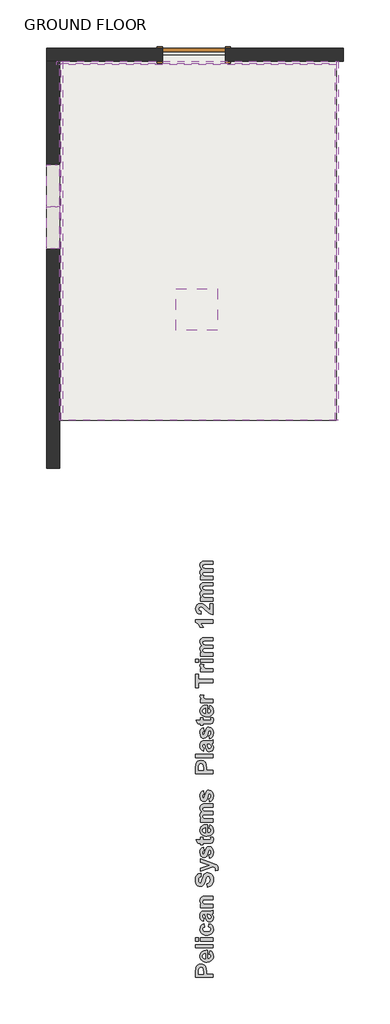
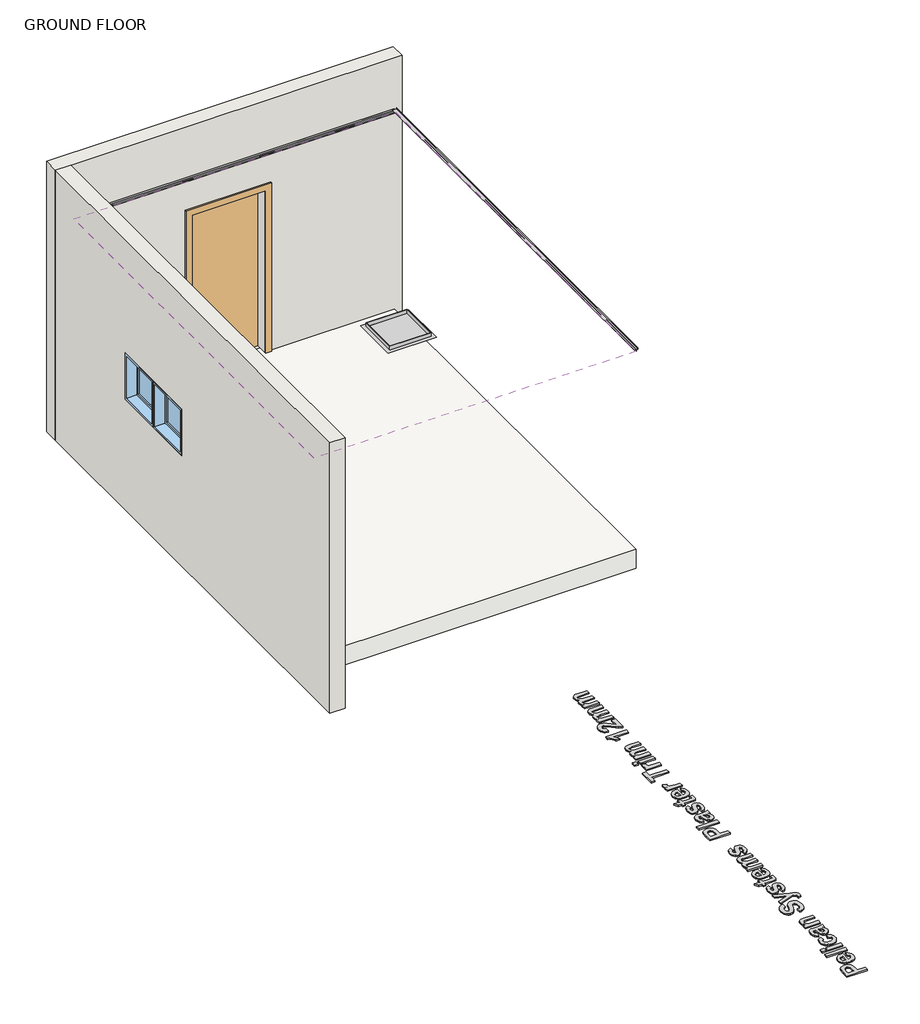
# One storey: 5 proxies, 2 walls, 2 windows, 1 covering, 1 door, 1 slab.
"""IFC4 building model written with IfcOpenShell, lengths in millimetres."""

from ifc_helpers import new_model, si_unit, frame, origin, origin_with_axes, place, context, project, spatial, polyline, outline, extrude, faceted_brep, transform, mapped, element, save
from components import m_single_flush_0915_x_2134mm_f5238887, m_fixed_0610_x_0610mm_09852ef8

model = new_model("IFC4")

# Units and contexts
model_context = context("Model", 3, world=origin())
ifc_project = project(units=[si_unit("LENGTHUNIT", "METRE", prefix="MILLI")], contexts=[model_context])

# Site, building, storey
site = spatial("IfcSite", under=ifc_project)
building = spatial("IfcBuilding", under=site)
storey = spatial("IfcBuildingStorey", under=building, Name="GROUND FLOOR", Elevation=0.0)

# Proxies
placement = place(None, origin())
element("IfcBuildingElementProxy", 1, Name="600mm Arial", ObjectType="600mm Arial", at=placement, inside=storey, context=model_context, shape_type="SweptSolid", body=[
    extrude(outline(polyline([(167673.5232647, 28925.9411568), (167418.4584147, 28925.9411568), (167418.4584147, 29008.1160675), (167422.2540226, 29069.0355741), (167431.3081289, 29089.0811283), (167447.0836242, 29105.5683), (167468.9953522, 29116.5992854), (167496.4581568, 29120.2762806), (167517.9428789, 29118.1175286), (167535.7110683, 29111.6412726), (167549.9129679, 29101.8359523), (167560.6988203, 29089.690007), (167572.7498753, 29062.6463008), (167576.3557028, 29008.5588884), (167576.3557028, 28974.5249377), (167673.5232647, 28974.5249377), (167673.5232647, 28925.9411568)]), holes=[polyline([(167462.9935472, 28974.5249377), (167531.8205703, 28974.5249377), (167531.8205703, 29004.7000204), (167528.0249624, 29048.2546209), (167516.1004276, 29065.4613767), (167507.3151768, 29070.1347189), (167497.2172784, 29071.6924996), (167485.1504083, 29069.5021176), (167475.392533, 29062.9309714), (167468.4022885, 29053.0228533), (167464.6383107, 29040.8215555), (167462.9935472, 29001.1574531), (167462.9935472, 28974.5249377)])]), origin_with_axes(), (0.0, 0.0, 1.0), 15.0),
    extrude(outline(polyline([(167616.8421869, 29266.0276234), (167624.9394837, 29314.6114044), (167647.6103334, 29302.7817598), (167664.1291352, 29285.6382642), (167674.2112186, 29263.3548829), (167677.5719131, 29236.1055812), (167675.5910802, 29214.1029168), (167669.6485816, 29195.1604612), (167659.7444173, 29179.2782144), (167645.8785873, 29166.4561765), (167617.1743026, 29153.0766587), (167581.7960741, 29148.6168195), (167559.9555137, 29150.095525), (167540.6137285, 29154.5316417), (167523.7707185, 29161.9251696), (167509.4264837, 29172.2761086), (167497.9684924, 29184.8885973), (167489.7842129, 29199.0667743), (167484.8736452, 29214.8106395), (167483.2367893, 29232.120193), (167484.9171366, 29251.3552267), (167489.9581783, 29268.4473234), (167498.3599145, 29283.3964833), (167510.1223452, 29296.2027061), (167525.3561756, 29306.4073561), (167544.1721109, 29313.5517972), (167566.5701512, 29317.6360294), (167592.5502964, 29318.6600528), (167592.5502964, 29197.2006004), (167613.014949, 29200.3161619), (167628.3555308, 29208.6506842), (167637.9394408, 29220.9389647), (167641.1340774, 29235.9158009), (167639.6949094, 29246.116497), (167635.3774054, 29254.5775396), (167627.8652648, 29261.2356685), (167616.8421869, 29266.0276234)]), holes=[polyline([(167564.2097576, 29270.0762718), (167545.0024002, 29267.1188607), (167531.0298186, 29259.2587894), (167522.5134234, 29247.8403356), (167519.674625, 29234.2077773), (167522.6636662, 29219.8160974), (167531.6307899, 29208.1446031), (167545.7852443, 29200.4901272), (167564.2097576, 29198.0229821), (167564.2097576, 29270.0762718)])]), origin_with_axes(), (0.0, 0.0, 1.0), 15.0),
    extrude(outline(polyline([(167673.5232647, 29355.0978885), (167418.4584147, 29355.0978885), (167418.4584147, 29403.6816694), (167673.5232647, 29403.6816694), (167673.5232647, 29355.0978885)])), origin_with_axes(), (0.0, 0.0, 1.0), 15.0),
    extrude(outline(polyline([(167462.9935472, 29452.2654504), (167418.4584147, 29452.2654504), (167418.4584147, 29500.8492313), (167462.9935472, 29500.8492313), (167462.9935472, 29452.2654504)])), origin_with_axes(), (0.0, 0.0, 1.0), 15.0),
    extrude(outline(polyline([(167673.5232647, 29452.2654504), (167487.2854377, 29452.2654504), (167487.2854377, 29500.8492313), (167673.5232647, 29500.8492313), (167673.5232647, 29452.2654504)])), origin_with_axes(), (0.0, 0.0, 1.0), 15.0),
    extrude(outline(polyline([(167539.9178671, 29703.281652), (167548.0151639, 29654.697871), (167535.6557157, 29650.9734308), (167526.7913898, 29644.3548395), (167521.4538162, 29635.0793228), (167519.674625, 29623.384106), (167523.011597, 29607.980264), (167533.0225128, 29596.0557292), (167550.8460548, 29588.4170683), (167577.6209054, 29585.870848), (167607.3057221, 29588.519866), (167626.7740276, 29596.46692), (167637.5440649, 29608.8738133), (167641.1340774, 29624.9023491), (167639.0860306, 29637.0403868), (167632.9418904, 29646.7587245), (167621.7843847, 29654.0099171), (167604.6962417, 29658.7465194), (167612.7935385, 29707.3303004), (167640.9363895, 29696.6946908), (167661.2191691, 29679.3376922), (167673.4837271, 29655.1011544), (167677.5719131, 29623.8269269), (167675.9627335, 29605.0604135), (167671.1351947, 29588.2984556), (167663.0892968, 29573.541053), (167651.8250396, 29560.7882059), (167637.7180303, 29550.5064577), (167621.1438759, 29543.1623518), (167602.1025763, 29538.7558882), (167580.5941316, 29537.2870671), (167558.8425308, 29538.7460038), (167539.641104, 29543.1228142), (167522.9898513, 29550.4174981), (167508.8887726, 29560.6300556), (167497.6660299, 29573.3334807), (167489.6497851, 29588.1007676), (167484.8400383, 29604.9319164), (167483.2367893, 29623.8269269), (167486.7398191, 29653.0689226), (167497.2489084, 29675.6369745), (167514.9222076, 29692.1636839), (167539.9178671, 29703.281652)])), origin_with_axes(), (0.0, 0.0, 1.0), 15.0),
    extrude(outline(polyline([(167543.9665155, 29784.2546202), (167535.8692187, 29739.7194877), (167512.5262302, 29749.3745652), (167496.1418561, 29764.1695285), (167486.463056, 29785.7333258), (167483.2367893, 29815.6949056), (167485.1899459, 29842.7860568), (167491.0494155, 29861.9380616), (167499.9058339, 29874.8747585), (167510.8498367, 29883.3199861), (167527.8589045, 29887.9696057), (167554.9105182, 29889.519479), (167612.3507176, 29889.519479), (167648.5355128, 29892.0815143), (167673.5232647, 29901.6654242), (167673.5232647, 29853.0816432), (167658.0877926, 29848.5269138), (167651.9515599, 29846.8188902), (167671.1510098, 29820.8189762), (167675.9666873, 29806.5063715), (167677.5719131, 29791.2764948), (167673.6735075, 29766.5022458), (167661.9782907, 29747.5953741), (167644.3366216, 29735.6154867), (167622.5988589, 29731.6221909), (167607.7010979, 29733.4013821), (167594.5113605, 29738.7389556), (167583.6148029, 29747.2869809), (167575.5965812, 29758.6975271), (167564.1464974, 29795.704704), (167552.0638123, 29840.935698), (167546.9397417, 29840.935698), (167534.3193455, 29839.4253624), (167525.937378, 29834.8943554), (167521.2403133, 29826.1881799), (167519.674625, 29812.1523382), (167521.0189028, 29802.0781623), (167525.0517362, 29794.5027615), (167543.9665155, 29784.2546202)]), holes=[polyline([(167588.501648, 29840.935698), (167595.238852, 29813.5440611), (167602.924958, 29788.9991301), (167609.8361274, 29782.4042614), (167618.4236902, 29780.2059718), (167627.0349756, 29781.969348), (167634.3968734, 29787.2594765), (167639.4497764, 29795.2697906), (167641.1340774, 29805.1937237), (167639.1730133, 29817.1024435), (167633.2898211, 29828.410192), (167618.7399909, 29839.1644143), (167597.2948063, 29840.935698), (167588.501648, 29840.935698)])]), origin_with_axes(), (0.0, 0.0, 1.0), 15.0),
    extrude(outline(polyline([(167673.5232647, 30104.0978448), (167673.5232647, 30055.5140639), (167577.8106858, 30055.5140639), (167538.4628841, 30052.4775776), (167524.6089153, 30042.5457369), (167519.674625, 30026.0348426), (167521.4380012, 30014.2763657), (167526.7281297, 30003.7989064), (167534.9361317, 29995.5118292), (167545.4531286, 29990.3244984), (167588.5649082, 29986.6870409), (167673.5232647, 29986.6870409), (167673.5232647, 29938.1032599), (167487.2854377, 29938.1032599), (167487.2854377, 29986.6870409), (167514.1077335, 29986.6870409), (167500.6016954, 29998.9792751), (167490.9545253, 30012.76603), (167485.1662233, 30028.0473055), (167483.2367893, 30044.8231016), (167489.1199815, 30073.0371203), (167504.1126327, 30092.3947205), (167524.7670656, 30101.5358095), (167557.8837444, 30104.0978448), (167673.5232647, 30104.0978448)])), origin_with_axes(), (0.0, 0.0, 1.0), 15.0),
    extrude(outline(polyline([(167588.501648, 30237.7032424), (167584.4529996, 30286.2870234), (167606.1828548, 30293.3721581), (167621.2703961, 30305.2650628), (167630.0951845, 30322.0448127), (167633.0367806, 30343.7904829), (167630.4352077, 30366.3585348), (167622.630489, 30382.5689434), (167611.346463, 30392.3426337), (167598.3069684, 30395.6005305), (167583.0929068, 30390.1917893), (167572.1805341, 30371.2453799), (167561.3630516, 30329.1141324), (167550.1818234, 30293.1507476), (167536.50182, 30269.7761291), (167513.2062766, 30251.7944367), (167485.3243736, 30245.8005393), (167466.5361146, 30248.552355), (167449.0130582, 30256.8078021), (167434.1311123, 30270.2505801), (167423.2661847, 30288.5643881), (167416.6238709, 30311.4487407), (167414.4097663, 30338.6031521), (167419.9292128, 30380.5683418), (167426.8285209, 30397.1088893), (167436.4875522, 30410.6880719), (167448.4476708, 30421.3493809), (167462.2502407, 30429.1363077), (167477.895262, 30434.0488523), (167495.3827345, 30436.0870146), (167495.3827345, 30387.5032337), (167478.6899674, 30382.13403), (167467.4533865, 30372.8585133), (167461.0720208, 30358.8226716), (167458.9448988, 30339.1724933), (167461.2064485, 30318.4864303), (167467.9910976, 30302.8611778), (167474.7915618, 30296.5035346), (167483.55309, 30294.3843202), (167491.8243522, 30296.3137542), (167498.7987816, 30302.1020562), (167506.9672461, 30318.9055287), (167515.4045662, 30349.7053052), (167524.1819094, 30382.576851), (167533.3704435, 30405.5956313), (167544.4963191, 30421.7269648), (167559.0856869, 30433.9361702), (167577.3204198, 30441.6222761), (167599.3823906, 30444.1843115), (167620.4480144, 30441.1557327), (167640.1219153, 30432.0699963), (167656.6644397, 30417.4410909), (167668.3359339, 30397.7830051), (167675.2629183, 30372.8822358), (167677.5719131, 30342.5252802), (167676.150537, 30319.8228006), (167671.8864088, 30299.9195817), (167664.7795284, 30282.8156237), (167654.8298959, 30268.5109264), (167642.1561239, 30256.9066461), (167626.8768253, 30247.9039386), (167608.992, 30241.5028041), (167588.501648, 30237.7032424)])), origin_with_axes(), (0.0, 0.0, 1.0), 15.0),
    extrude(outline(polyline([(167487.2854377, 30464.4275535), (167487.2854377, 30513.0113345), (167619.1195517, 30555.5221428), (167487.2854377, 30598.0329511), (167487.2854377, 30646.6167321), (167665.7422685, 30583.6096412), (167698.8905774, 30571.9065169), (167722.4866064, 30560.3615429), (167735.7079739, 30547.7411466), (167743.5838603, 30530.1864602), (167746.3989361, 30506.6853213), (167743.6154903, 30480.6221472), (167707.6204755, 30476.5734988), (167709.9611004, 30495.8678389), (167707.3911576, 30509.634825), (167699.6813291, 30519.3057176), (167673.5232647, 30530.9772118), (167487.2854377, 30464.4275535)])), origin_with_axes(), (0.0, 0.0, 1.0), 15.0),
    extrude(outline(polyline([(167620.8908353, 30654.7140289), (167612.7935385, 30703.2978099), (167625.0343739, 30707.923707), (167633.9224224, 30715.7284257), (167639.3311637, 30726.9808216), (167641.1340774, 30741.9497502), (167639.4102388, 30758.1917889), (167634.2387231, 30769.8474681), (167628.6085714, 30774.591978), (167621.3336563, 30776.1734813), (167612.2241973, 30772.8206943), (167605.8349241, 30756.9424013), (167593.4043082, 30710.0191988), (167582.0491146, 30684.12999), (167564.0674223, 30668.1409918), (167540.2341677, 30662.8113257), (167518.0456766, 30667.3818702), (167499.6844235, 30681.0935037), (167487.3486979, 30704.4206772), (167483.2367893, 30737.8378416), (167486.5579462, 30769.7051329), (167496.5214169, 30792.1782945), (167513.0006812, 30807.1867607), (167535.8692187, 30816.6599654), (167543.9665155, 30768.0761845), (167533.5760389, 30764.501987), (167525.937378, 30758.713685), (167521.2403133, 30750.3633477), (167519.674625, 30739.1030443), (167521.0030878, 30725.2648905), (167524.9884761, 30716.0130963), (167534.8570566, 30711.3951067), (167543.6502148, 30716.0130963), (167557.2511431, 30758.9983556), (167567.0722785, 30790.225138), (167578.9493682, 30810.3339523), (167594.6220658, 30821.1514348), (167615.450464, 30824.7572622), (167639.1492908, 30819.5303939), (167659.2581051, 30803.8497888), (167667.2703961, 30792.1407338), (167672.9934611, 30777.9210424), (167677.5719131, 30741.9497502), (167673.7604902, 30708.6353835), (167662.3262214, 30683.0861979), (167644.3445291, 30665.1598581), (167620.8908353, 30654.7140289)])), origin_with_axes(), (0.0, 0.0, 1.0), 15.0),
    extrude(outline(polyline([(167487.2854377, 30958.3626599), (167523.7232734, 30958.3626599), (167523.7232734, 30921.9248241), (167603.6208195, 30921.9248241), (167631.8664681, 30923.0318764), (167638.5087819, 30928.0610569), (167641.1340774, 30937.6133367), (167636.4528277, 30960.3869841), (167670.9928594, 30962.4113083), (167675.9271497, 30943.6704943), (167677.5719131, 30922.6206856), (167673.0171836, 30898.0757546), (167661.2507992, 30882.0393113), (167641.7034186, 30874.9225465), (167606.3410051, 30873.3410432), (167523.7232734, 30873.3410432), (167523.7232734, 30849.0491527), (167487.2854377, 30849.0491527), (167487.2854377, 30873.3410432), (167450.847602, 30873.3410432), (167422.5070631, 30921.9248241), (167487.2854377, 30921.9248241), (167487.2854377, 30958.3626599)])), origin_with_axes(), (0.0, 0.0, 1.0), 15.0),
    extrude(outline(polyline([(167616.8421869, 31091.9680575), (167624.9394837, 31140.5518384), (167647.6103334, 31128.7221938), (167664.1291352, 31111.5786982), (167674.2112186, 31089.2953169), (167677.5719131, 31062.0460153), (167675.5910802, 31040.0433508), (167669.6485816, 31021.1008952), (167659.7444173, 31005.2186485), (167645.8785873, 30992.3966106), (167617.1743026, 30979.0170928), (167581.7960741, 30974.5572535), (167559.9555137, 30976.0359591), (167540.6137285, 30980.4720758), (167523.7707185, 30987.8656037), (167509.4264837, 30998.2165427), (167497.9684924, 31010.8290314), (167489.7842129, 31025.0072083), (167484.8736452, 31040.7510735), (167483.2367893, 31058.060627), (167484.9171366, 31077.2956607), (167489.9581783, 31094.3877575), (167498.3599145, 31109.3369173), (167510.1223452, 31122.1431402), (167525.3561756, 31132.3477901), (167544.1721109, 31139.4922312), (167566.5701512, 31143.5764635), (167592.5502964, 31144.6004868), (167592.5502964, 31023.1410345), (167613.014949, 31026.2565959), (167628.3555308, 31034.5911182), (167637.9394408, 31046.8793988), (167641.1340774, 31061.8562349), (167639.6949094, 31072.0569311), (167635.3774054, 31080.5179737), (167627.8652648, 31087.1761025), (167616.8421869, 31091.9680575)]), holes=[polyline([(167564.2097576, 31096.0167059), (167545.0024002, 31093.0592947), (167531.0298186, 31085.1992234), (167522.5134234, 31073.7807697), (167519.674625, 31060.1482114), (167522.6636662, 31045.7565314), (167531.6307899, 31034.0850372), (167545.7852443, 31026.4305613), (167564.2097576, 31023.9634162), (167564.2097576, 31096.0167059)])]), origin_with_axes(), (0.0, 0.0, 1.0), 15.0),
    extrude(outline(polyline([(167487.2854377, 31176.9896741), (167487.2854377, 31225.5734551), (167512.2099295, 31225.5734551), (167499.5341807, 31237.5335737), (167490.4800744, 31250.577022), (167485.0476106, 31264.7038001), (167483.2367893, 31279.913908), (167485.0159805, 31295.562883), (167490.3535541, 31308.9819384), (167499.2969552, 31320.1868892), (167511.8936289, 31329.1935504), (167499.2969552, 31341.6320737), (167490.3535541, 31355.0353141), (167485.0159805, 31369.3874564), (167483.2367893, 31384.6726857), (167485.3164661, 31403.128829), (167491.5554966, 31418.516856), (167501.8273604, 31430.6311712), (167516.0055374, 31439.2661791), (167531.5833448, 31442.9668968), (167554.5309574, 31444.2004694), (167673.5232647, 31444.2004694), (167673.5232647, 31395.6166884), (167566.2973419, 31395.6166884), (167543.3497292, 31394.3831158), (167530.3023271, 31390.6823982), (167522.3315505, 31382.3004307), (167519.674625, 31370.3126358), (167521.2640358, 31360.6101132), (167526.0322682, 31351.4927467), (167533.868617, 31343.901531), (167544.6623769, 31338.7774603), (167583.4408375, 31334.8869622), (167673.5232647, 31334.8869622), (167673.5232647, 31286.3031813), (167570.7255511, 31286.3031813), (167535.3947677, 31283.772776), (167523.5651231, 31275.9601498), (167519.674625, 31261.5684699), (167521.2165907, 31251.1779933), (167525.8424878, 31241.894569), (167533.3862585, 31234.3982434), (167543.6818449, 31229.369063), (167582.3654153, 31225.5734551), (167673.5232647, 31225.5734551), (167673.5232647, 31176.9896741), (167487.2854377, 31176.9896741)])), origin_with_axes(), (0.0, 0.0, 1.0), 15.0),
    extrude(outline(polyline([(167620.8908353, 31472.5410082), (167612.7935385, 31521.1247892), (167625.0343739, 31525.7506863), (167633.9224224, 31533.555405), (167639.3311637, 31544.8078009), (167641.1340774, 31559.7767295), (167639.4102388, 31576.0187683), (167634.2387231, 31587.6744475), (167628.6085714, 31592.4189573), (167621.3336563, 31594.0004606), (167612.2241973, 31590.6476737), (167605.8349241, 31574.7693807), (167593.4043082, 31527.8461782), (167582.0491146, 31501.9569694), (167564.0674223, 31485.9679711), (167540.2341677, 31480.6383051), (167518.0456766, 31485.2088496), (167499.6844235, 31498.9204831), (167487.3486979, 31522.2476565), (167483.2367893, 31555.664821), (167486.5579462, 31587.5321122), (167496.5214169, 31610.0052739), (167513.0006812, 31625.0137401), (167535.8692187, 31634.4869447), (167543.9665155, 31585.9031638), (167533.5760389, 31582.3289664), (167525.937378, 31576.5406643), (167521.2403133, 31568.190327), (167519.674625, 31556.9300236), (167521.0030878, 31543.0918698), (167524.9884761, 31533.8400756), (167534.8570566, 31529.222086), (167543.6502148, 31533.8400756), (167557.2511431, 31576.8253349), (167567.0722785, 31608.0521173), (167578.9493682, 31628.1609316), (167594.6220658, 31638.9784141), (167615.450464, 31642.5842416), (167639.1492908, 31637.3573732), (167659.2581051, 31621.6767681), (167667.2703961, 31609.9677132), (167672.9934611, 31595.7480218), (167677.5719131, 31559.7767295), (167673.7604902, 31526.4623628), (167662.3262214, 31500.9131772), (167644.3445291, 31482.9868375), (167620.8908353, 31472.5410082)])), origin_with_axes(), (0.0, 0.0, 1.0), 15.0),
    extrude(outline(polyline([(167673.5232647, 31881.4544979), (167418.4584147, 31881.4544979), (167418.4584147, 31963.6294087), (167422.2540226, 32024.5489152), (167431.3081289, 32044.5944694), (167447.0836242, 32061.0816412), (167468.9953522, 32072.1126266), (167496.4581568, 32075.7896217), (167517.9428789, 32073.6308697), (167535.7110683, 32067.1546138), (167549.9129679, 32057.3492934), (167560.6988203, 32045.2033482), (167572.7498753, 32018.159642), (167576.3557028, 31964.0722296), (167576.3557028, 31930.0382789), (167673.5232647, 31930.0382789), (167673.5232647, 31881.4544979)]), holes=[polyline([(167462.9935472, 31930.0382789), (167531.8205703, 31930.0382789), (167531.8205703, 31960.2133616), (167528.0249624, 32003.7679621), (167516.1004276, 32020.9747178), (167507.3151768, 32025.64806), (167497.2172784, 32027.2058408), (167485.1504083, 32025.0154587), (167475.392533, 32018.4443126), (167468.4022885, 32008.5361945), (167464.6383107, 31996.3348966), (167462.9935472, 31956.6707942), (167462.9935472, 31930.0382789)])]), origin_with_axes(), (0.0, 0.0, 1.0), 15.0),
    extrude(outline(polyline([(167673.5232647, 32116.2761058), (167418.4584147, 32116.2761058), (167418.4584147, 32164.8598868), (167673.5232647, 32164.8598868), (167673.5232647, 32116.2761058)])), origin_with_axes(), (0.0, 0.0, 1.0), 15.0),
    extrude(outline(polyline([(167543.9665155, 32253.9301519), (167535.8692187, 32209.3950193), (167512.5262302, 32219.0500969), (167496.1418561, 32233.8450601), (167486.463056, 32255.4088574), (167483.2367893, 32285.3704372), (167485.1899459, 32312.4615885), (167491.0494155, 32331.6135933), (167499.9058339, 32344.5502902), (167510.8498367, 32352.9955177), (167527.8589045, 32357.6451374), (167554.9105182, 32359.1950106), (167612.3507176, 32359.1950106), (167648.5355128, 32361.7570459), (167673.5232647, 32371.3409558), (167673.5232647, 32322.7571749), (167658.0877926, 32318.2024454), (167651.9515599, 32316.4944219), (167671.1510098, 32290.4945078), (167675.9666873, 32276.1819031), (167677.5719131, 32260.9520265), (167673.6735075, 32236.1777775), (167661.9782907, 32217.2709057), (167644.3366216, 32205.2910183), (167622.5988589, 32201.2977225), (167607.7010979, 32203.0769137), (167594.5113605, 32208.4144873), (167583.6148029, 32216.9625126), (167575.5965812, 32228.3730588), (167564.1464974, 32265.3802357), (167552.0638123, 32310.6112296), (167546.9397417, 32310.6112296), (167534.3193455, 32309.100894), (167525.937378, 32304.5698871), (167521.2403133, 32295.8637115), (167519.674625, 32281.8278698), (167521.0189028, 32271.7536939), (167525.0517362, 32264.1782932), (167543.9665155, 32253.9301519)]), holes=[polyline([(167588.501648, 32310.6112296), (167595.238852, 32283.2195927), (167602.924958, 32258.6746617), (167609.8361274, 32252.079793), (167618.4236902, 32249.8815035), (167627.0349756, 32251.6448796), (167634.3968734, 32256.9350081), (167639.4497764, 32264.9453223), (167641.1340774, 32274.8692554), (167639.1730133, 32286.7779751), (167633.2898211, 32298.0857236), (167618.7399909, 32308.839946), (167597.2948063, 32310.6112296), (167588.501648, 32310.6112296)])]), origin_with_axes(), (0.0, 0.0, 1.0), 15.0),
    extrude(outline(polyline([(167620.8908353, 32387.5355495), (167612.7935385, 32436.1193304), (167625.0343739, 32440.7452275), (167633.9224224, 32448.5499463), (167639.3311637, 32459.8023421), (167641.1340774, 32474.7712707), (167639.4102388, 32491.0133095), (167634.2387231, 32502.6689887), (167628.6085714, 32507.4134986), (167621.3336563, 32508.9950019), (167612.2241973, 32505.6422149), (167605.8349241, 32489.7639219), (167593.4043082, 32442.8407194), (167582.0491146, 32416.9515106), (167564.0674223, 32400.9625124), (167540.2341677, 32395.6328463), (167518.0456766, 32400.2033908), (167499.6844235, 32413.9150243), (167487.3486979, 32437.2421978), (167483.2367893, 32470.6593622), (167486.5579462, 32502.5266534), (167496.5214169, 32524.9998151), (167513.0006812, 32540.0082813), (167535.8692187, 32549.481486), (167543.9665155, 32500.897705), (167533.5760389, 32497.3235076), (167525.937378, 32491.5352056), (167521.2403133, 32483.1848682), (167519.674625, 32471.9245648), (167521.0030878, 32458.0864111), (167524.9884761, 32448.8346169), (167534.8570566, 32444.2166273), (167543.6502148, 32448.8346169), (167557.2511431, 32491.8198762), (167567.0722785, 32523.0466586), (167578.9493682, 32543.1554728), (167594.6220658, 32553.9729553), (167615.450464, 32557.5787828), (167639.1492908, 32552.3519144), (167659.2581051, 32536.6713094), (167667.2703961, 32524.9622544), (167672.9934611, 32510.742563), (167677.5719131, 32474.7712707), (167673.7604902, 32441.456904), (167662.3262214, 32415.9077184), (167644.3445291, 32397.9813787), (167620.8908353, 32387.5355495)])), origin_with_axes(), (0.0, 0.0, 1.0), 15.0),
    extrude(outline(polyline([(167487.2854377, 32691.1841804), (167523.7232734, 32691.1841804), (167523.7232734, 32654.7463447), (167603.6208195, 32654.7463447), (167631.8664681, 32655.853397), (167638.5087819, 32660.8825775), (167641.1340774, 32670.4348573), (167636.4528277, 32693.2085046), (167670.9928594, 32695.2328288), (167675.9271497, 32676.4920149), (167677.5719131, 32655.4422062), (167673.0171836, 32630.8972752), (167661.2507992, 32614.8608318), (167641.7034186, 32607.744067), (167606.3410051, 32606.1625638), (167523.7232734, 32606.1625638), (167523.7232734, 32581.8706733), (167487.2854377, 32581.8706733), (167487.2854377, 32606.1625638), (167450.847602, 32606.1625638), (167422.5070631, 32654.7463447), (167487.2854377, 32654.7463447), (167487.2854377, 32691.1841804)])), origin_with_axes(), (0.0, 0.0, 1.0), 15.0),
    extrude(outline(polyline([(167616.8421869, 32824.789578), (167624.9394837, 32873.373359), (167647.6103334, 32861.5437144), (167664.1291352, 32844.4002188), (167674.2112186, 32822.1168375), (167677.5719131, 32794.8675359), (167675.5910802, 32772.8648714), (167669.6485816, 32753.9224158), (167659.7444173, 32738.040169), (167645.8785873, 32725.2181311), (167617.1743026, 32711.8386133), (167581.7960741, 32707.3787741), (167559.9555137, 32708.8574796), (167540.6137285, 32713.2935964), (167523.7707185, 32720.6871242), (167509.4264837, 32731.0380632), (167497.9684924, 32743.6505519), (167489.7842129, 32757.8287289), (167484.8736452, 32773.5725941), (167483.2367893, 32790.8821476), (167484.9171366, 32810.1171813), (167489.9581783, 32827.2092781), (167498.3599145, 32842.1584379), (167510.1223452, 32854.9646607), (167525.3561756, 32865.1693107), (167544.1721109, 32872.3137518), (167566.5701512, 32876.397984), (167592.5502964, 32877.4220074), (167592.5502964, 32755.962555), (167613.014949, 32759.0781165), (167628.3555308, 32767.4126388), (167637.9394408, 32779.7009193), (167641.1340774, 32794.6777555), (167639.6949094, 32804.8784517), (167635.3774054, 32813.3394942), (167627.8652648, 32819.9976231), (167616.8421869, 32824.789578)]), holes=[polyline([(167564.2097576, 32828.8382264), (167545.0024002, 32825.8808153), (167531.0298186, 32818.020744), (167522.5134234, 32806.6022902), (167519.674625, 32792.9697319), (167522.6636662, 32778.578052), (167531.6307899, 32766.9065578), (167545.7852443, 32759.2520819), (167564.2097576, 32756.7849367), (167564.2097576, 32828.8382264)])]), origin_with_axes(), (0.0, 0.0, 1.0), 15.0),
    extrude(outline(polyline([(167673.5232647, 32962.4436241), (167673.5232647, 32913.8598431), (167487.2854377, 32913.8598431), (167487.2854377, 32962.4436241), (167513.2220916, 32962.4436241), (167489.0250913, 32981.8644844), (167483.2367893, 33001.4751252), (167485.7988246, 33016.6417417), (167493.4849306, 33031.2706471), (167539.7280867, 33017.1003776), (167533.7974494, 33005.3972533), (167531.8205703, 32994.5797708), (167537.3558318, 32977.4679053), (167545.1131054, 32971.2209673), (167557.3144032, 32966.4606424), (167617.7910889, 32962.4436241), (167673.5232647, 32962.4436241)])), origin_with_axes(), (0.0, 0.0, 1.0), 15.0),
    extrude(outline(polyline([(167673.5232647, 33205.3625288), (167462.9935472, 33205.3625288), (167462.9935472, 33132.4868574), (167418.4584147, 33132.4868574), (167418.4584147, 33326.8219812), (167462.9935472, 33326.8219812), (167462.9935472, 33253.9463098), (167673.5232647, 33253.9463098), (167673.5232647, 33205.3625288)])), origin_with_axes(), (0.0, 0.0, 1.0), 15.0),
    extrude(outline(polyline([(167673.5232647, 33407.7949494), (167673.5232647, 33359.2111685), (167487.2854377, 33359.2111685), (167487.2854377, 33407.7949494), (167513.2220916, 33407.7949494), (167489.0250913, 33427.2158098), (167483.2367893, 33446.8264505), (167485.7988246, 33461.9930671), (167493.4849306, 33476.6219724), (167539.7280867, 33462.451703), (167533.7974494, 33450.7485787), (167531.8205703, 33439.9310962), (167537.3558318, 33422.8192307), (167545.1131054, 33416.5722927), (167557.3144032, 33411.8119678), (167617.7910889, 33407.7949494), (167673.5232647, 33407.7949494)])), origin_with_axes(), (0.0, 0.0, 1.0), 15.0),
    extrude(outline(polyline([(167462.9935472, 33496.8652145), (167418.4584147, 33496.8652145), (167418.4584147, 33545.4489955), (167462.9935472, 33545.4489955), (167462.9935472, 33496.8652145)])), origin_with_axes(), (0.0, 0.0, 1.0), 15.0),
    extrude(outline(polyline([(167673.5232647, 33496.8652145), (167487.2854377, 33496.8652145), (167487.2854377, 33545.4489955), (167673.5232647, 33545.4489955), (167673.5232647, 33496.8652145)])), origin_with_axes(), (0.0, 0.0, 1.0), 15.0),
    extrude(outline(polyline([(167487.2854377, 33589.984128), (167487.2854377, 33638.567909), (167512.2099295, 33638.567909), (167499.5341807, 33650.5280276), (167490.4800744, 33663.5714759), (167485.0476106, 33677.698254), (167483.2367893, 33692.9083619), (167485.0159805, 33708.5573369), (167490.3535541, 33721.9763923), (167499.2969552, 33733.181343), (167511.8936289, 33742.1880043), (167499.2969552, 33754.6265276), (167490.3535541, 33768.029768), (167485.0159805, 33782.3819103), (167483.2367893, 33797.6671395), (167485.3164661, 33816.1232829), (167491.5554966, 33831.5113099), (167501.8273604, 33843.625625), (167516.0055374, 33852.260633), (167531.5833448, 33855.9613507), (167554.5309574, 33857.1949232), (167673.5232647, 33857.1949232), (167673.5232647, 33808.6111423), (167566.2973419, 33808.6111423), (167543.3497292, 33807.3775697), (167530.3023271, 33803.676852), (167522.3315505, 33795.2948846), (167519.674625, 33783.3070897), (167521.2640358, 33773.604567), (167526.0322682, 33764.4872006), (167533.868617, 33756.8959848), (167544.6623769, 33751.7719142), (167583.4408375, 33747.8814161), (167673.5232647, 33747.8814161), (167673.5232647, 33699.2976351), (167570.7255511, 33699.2976351), (167535.3947677, 33696.7672299), (167523.5651231, 33688.9546036), (167519.674625, 33674.5629237), (167521.2165907, 33664.1724472), (167525.8424878, 33654.8890229), (167533.3862585, 33647.3926973), (167543.6818449, 33642.3635168), (167582.3654153, 33638.567909), (167673.5232647, 33638.567909), (167673.5232647, 33589.984128), (167487.2854377, 33589.984128)])), origin_with_axes(), (0.0, 0.0, 1.0), 15.0),
    extrude(outline(polyline([(167673.5232647, 34116.3084216), (167673.5232647, 34067.7246407), (167491.2075659, 34067.7246407), (167515.0882655, 34039.6687724), (167531.8205703, 34006.9949145), (167483.2367893, 34006.9949145), (167474.1510529, 34026.4632199), (167459.4193498, 34047.5446587), (167440.4017728, 34066.0008021), (167418.4584147, 34077.5932212), (167418.4584147, 34116.3084216), (167673.5232647, 34116.3084216)])), origin_with_axes(), (0.0, 0.0, 1.0), 15.0),
    extrude(outline(polyline([(167624.9394837, 34351.1300296), (167673.5232647, 34351.1300296), (167673.5232647, 34189.1840931), (167649.0178713, 34194.3556088), (167625.8567557, 34204.6828253), (167599.6749688, 34223.8664601), (167566.1075615, 34255.6072311), (167525.3680369, 34293.1837492), (167510.6600563, 34300.2056237), (167496.1418561, 34302.5462486), (167481.9953092, 34300.577277), (167471.5652951, 34294.6703622), (167465.1364842, 34285.2999553), (167462.9935472, 34272.9405071), (167465.1048541, 34260.6680416), (167471.4387748, 34251.1790219), (167482.6595406, 34244.7897486), (167499.431383, 34241.8165224), (167495.0031738, 34193.2327415), (167459.8542632, 34201.8361193), (167446.6151038, 34209.4589652), (167436.2661417, 34219.2959156), (167422.9103465, 34243.9199218), (167418.4584147, 34274.0159293), (167423.4480576, 34306.1520761), (167438.4169862, 34330.5704868), (167460.8031652, 34345.9901439), (167488.0445593, 34351.1300296), (167520.1807061, 34345.4998779), (167552.1270725, 34327.6605208), (167584.0101787, 34297.453808), (167611.6548561, 34269.7142404), (167624.9394837, 34260.6047815), (167624.9394837, 34351.1300296)])), origin_with_axes(), (0.0, 0.0, 1.0), 15.0),
    extrude(outline(polyline([(167487.2854377, 34387.5678653), (167487.2854377, 34436.1516462), (167512.2099295, 34436.1516462), (167499.5341807, 34448.1117648), (167490.4800744, 34461.1552132), (167485.0476106, 34475.2819913), (167483.2367893, 34490.4920991), (167485.0159805, 34506.1410741), (167490.3535541, 34519.5601295), (167499.2969552, 34530.7650803), (167511.8936289, 34539.7717415), (167499.2969552, 34552.2102649), (167490.3535541, 34565.6135052), (167485.0159805, 34579.9656475), (167483.2367893, 34595.2508768), (167485.3164661, 34613.7070202), (167491.5554966, 34629.0950471), (167501.8273604, 34641.2093623), (167516.0055374, 34649.8443702), (167531.5833448, 34653.5450879), (167554.5309574, 34654.7786605), (167673.5232647, 34654.7786605), (167673.5232647, 34606.1948795), (167566.2973419, 34606.1948795), (167543.3497292, 34604.961307), (167530.3023271, 34601.2605893), (167522.3315505, 34592.8786219), (167519.674625, 34580.890827), (167521.2640358, 34571.1883043), (167526.0322682, 34562.0709379), (167533.868617, 34554.4797221), (167544.6623769, 34549.3556514), (167583.4408375, 34545.4651534), (167673.5232647, 34545.4651534), (167673.5232647, 34496.8813724), (167570.7255511, 34496.8813724), (167535.3947677, 34494.3509671), (167523.5651231, 34486.5383409), (167519.674625, 34472.146661), (167521.2165907, 34461.7561844), (167525.8424878, 34452.4727601), (167533.3862585, 34444.9764346), (167543.6818449, 34439.9472541), (167582.3654153, 34436.1516462), (167673.5232647, 34436.1516462), (167673.5232647, 34387.5678653), (167487.2854377, 34387.5678653)])), origin_with_axes(), (0.0, 0.0, 1.0), 15.0),
    extrude(outline(polyline([(167487.2854377, 34699.313793), (167487.2854377, 34747.897574), (167512.2099295, 34747.897574), (167499.5341807, 34759.8576926), (167490.4800744, 34772.9011409), (167485.0476106, 34787.027919), (167483.2367893, 34802.2380269), (167485.0159805, 34817.8870019), (167490.3535541, 34831.3060573), (167499.2969552, 34842.5110081), (167511.8936289, 34851.5176693), (167499.2969552, 34863.9561926), (167490.3535541, 34877.359433), (167485.0159805, 34891.7115753), (167483.2367893, 34906.9968046), (167485.3164661, 34925.4529479), (167491.5554966, 34940.8409749), (167501.8273604, 34952.9552901), (167516.0055374, 34961.590298), (167531.5833448, 34965.2910157), (167554.5309574, 34966.5245883), (167673.5232647, 34966.5245883), (167673.5232647, 34917.9408073), (167566.2973419, 34917.9408073), (167543.3497292, 34916.7072347), (167530.3023271, 34913.0065171), (167522.3315505, 34904.6245496), (167519.674625, 34892.6367547), (167521.2640358, 34882.9342321), (167526.0322682, 34873.8168656), (167533.868617, 34866.2256499), (167544.6623769, 34861.1015792), (167583.4408375, 34857.2110811), (167673.5232647, 34857.2110811), (167673.5232647, 34808.6273002), (167570.7255511, 34808.6273002), (167535.3947677, 34806.0968949), (167523.5651231, 34798.2842687), (167519.674625, 34783.8925888), (167521.2165907, 34773.5021122), (167525.8424878, 34764.2186879), (167533.3862585, 34756.7223623), (167543.6818449, 34751.6931819), (167582.3654153, 34747.897574), (167673.5232647, 34747.897574), (167673.5232647, 34699.313793), (167487.2854377, 34699.313793)])), origin_with_axes(), (0.0, 0.0, 1.0), 15.0),
])
element("IfcBuildingElementProxy", 2, Name="Ceiling_Access_HatchPanel_Parametric : Top Hung", ObjectType="Ceiling_Access_HatchPanel_Parametric : Top Hung", at=placement, inside=storey, context=model_context, shape_type="SolidModel", body=[
    faceted_brep([(167182.6212716, 38871.9489557, 2650.0), (167182.6212716, 38361.2489557, 2650.0), (167693.3212716, 38361.2489557, 2650.0), (167693.3212716, 38871.9489557, 2650.0), (167188.9712716, 38865.5989557, 2650.0), (167686.9712716, 38865.5989557, 2650.0), (167686.9712716, 38367.5989557, 2650.0), (167188.9712716, 38367.5989557, 2650.0), (167182.6212716, 38871.9489557, 2600.0), (167693.3212716, 38871.9489557, 2600.0), (167693.3212716, 38361.2489557, 2600.0), (167182.6212716, 38361.2489557, 2600.0), (167188.9712716, 38865.5989557, 2600.0), (167188.9712716, 38367.5989557, 2600.0), (167686.9712716, 38367.5989557, 2600.0), (167686.9712716, 38865.5989557, 2600.0), (167182.6212716, 38871.9489557, 2612.0), (167182.6212716, 38361.2489557, 2612.0), (167693.3212716, 38361.2489557, 2612.0), (167693.3212716, 38871.9489557, 2612.0)], [[[0, 1, 2, 3], [4, 5, 6, 7]], [[8, 9, 10, 11], [12, 13, 14, 15]], [[5, 4, 12, 15]], [[6, 5, 15, 14]], [[7, 6, 14, 13]], [[4, 7, 13, 12]], [[1, 0, 16, 8, 11, 17]], [[2, 1, 17, 11, 10, 18]], [[3, 2, 18, 10, 9, 19]], [[0, 3, 19, 9, 8, 16]]]),
    extrude(outline(polyline([(167188.9712716, 38865.5989557), (167686.9712716, 38865.5989557), (167686.9712716, 38367.5989557), (167188.9712716, 38367.5989557), (167188.9712716, 38865.5989557)])), frame((0.0, 0.0, 2593.65), z_axis=(0.0, 0.0, 1.0), x_axis=(1.0, 0.0, 0.0)), (0.0, 0.0, 1.0), 6.35),
    faceted_brep([(167188.9712716, 38865.5989557, 2600.0), (167188.9712716, 38865.5989557, 2590.475), (167686.9712716, 38865.5989557, 2590.475), (167686.9712716, 38865.5989557, 2600.0), (167686.9712716, 38367.5989557, 2590.475), (167686.9712716, 38367.5989557, 2600.0), (167188.9712716, 38367.5989557, 2590.475), (167188.9712716, 38367.5989557, 2600.0), (167725.0712716, 38903.6989557, 2590.475), (167725.0712716, 38329.4989557, 2590.475), (167150.8712716, 38329.4989557, 2590.475), (167150.8712716, 38903.6989557, 2590.475), (167138.1712716, 38916.3989557, 2600.0), (167138.1712716, 38316.7989557, 2600.0), (167737.7712716, 38316.7989557, 2600.0), (167737.7712716, 38916.3989557, 2600.0)], [[[0, 1, 2, 3]], [[3, 2, 4, 5]], [[5, 4, 6, 7]], [[8, 9, 10, 11], [1, 6, 4, 2]], [[12, 13, 14, 15], [3, 5, 7, 0]], [[7, 6, 1, 0]], [[11, 12, 15, 8]], [[8, 15, 14, 9]], [[9, 14, 13, 10]], [[10, 13, 12, 11]]]),
])
element("IfcBuildingElementProxy", 3, Name="TR09 : Trims Pelican Systems  Plaster Trim 12mm", ObjectType="TR09 : Trims Pelican Systems  Plaster Trim 12mm", at=placement, inside=storey, context=model_context, shape_type="Brep", body=[
    faceted_brep([(169460.7345529, 42216.9193804, 2613.0), (169460.7345529, 42171.9193804, 2613.0), (169460.7345529, 42171.9193804, 2612.0), (169460.7345529, 42193.9193804, 2612.0), (169460.7345529, 42193.9193804, 2597.0), (169460.7345529, 42194.9193804, 2597.0), (169460.7345529, 42194.9193804, 2612.0), (169460.7345529, 42217.9193804, 2612.0), (169460.7345529, 42217.9193804, 2620.0), (169460.7345529, 42216.9193804, 2620.0), (165400.7345529, 42217.9193804, 2633.0), (165400.7345529, 42217.9193804, 2612.0), (165400.7345529, 42194.9193804, 2612.0), (165400.7345529, 42194.9193804, 2597.0), (165400.7345529, 42193.9193804, 2597.0), (165400.7345529, 42193.9193804, 2612.0), (165400.7345529, 42171.9193804, 2612.0), (165400.7345529, 42171.9193804, 2613.0), (165400.7345529, 42216.9193804, 2613.0), (165400.7345529, 42216.9193804, 2633.0), (165443.7345529, 42217.9193804, 2633.0), (169460.7345529, 42217.9193804, 2633.0), (169460.7345529, 42217.9193804, 2621.0), (169445.7345529, 42217.9193804, 2621.0), (169445.7345529, 42217.9193804, 2620.0), (165466.7345529, 42217.9193804, 2612.0), (165466.7345529, 42217.9193804, 2620.0), (165488.7345529, 42217.9193804, 2620.0), (165488.7345529, 42217.9193804, 2621.0), (165443.7345529, 42217.9193804, 2621.0), (165466.7345529, 42194.9193804, 2612.0), (165465.7345529, 42194.9193804, 2612.0), (165465.7345529, 42194.9193804, 2605.0), (165466.7345529, 42194.9193804, 2605.0), (165466.7345529, 42171.9193804, 2613.0), (165466.7345529, 42171.9193804, 2612.0), (165466.7345529, 42216.9193804, 2613.0), (169460.7345529, 42216.9193804, 2633.0), (165443.7345529, 42216.9193804, 2633.0), (169460.7345529, 42216.9193804, 2621.0), (165443.7345529, 42216.9193804, 2621.0), (165488.7345529, 42216.9193804, 2621.0), (165488.7345529, 42216.9193804, 2620.0), (165466.7345529, 42216.9193804, 2620.0), (169445.7345529, 42216.9193804, 2620.0), (169445.7345529, 42216.9193804, 2621.0), (165466.7345529, 42193.9193804, 2612.0), (165466.7345529, 42193.9193804, 2605.0), (165465.7345529, 42193.9193804, 2605.0), (165465.7345529, 42193.9193804, 2612.0), (165442.7345529, 42216.9193804, 2620.0), (165442.7345529, 42217.9193804, 2620.0), (165442.7345529, 42217.9193804, 2633.0), (165442.7345529, 42216.9193804, 2633.0), (165465.7345529, 42216.9193804, 2620.0), (165465.7345529, 42217.9193804, 2620.0), (165465.7345529, 42216.9193804, 2613.0), (165465.7345529, 42171.9193804, 2613.0), (165465.7345529, 42171.9193804, 2612.0), (165465.7345529, 42217.9193804, 2612.0)], [[[0, 1, 2, 3, 4, 5, 6, 7, 8, 9]], [[10, 11, 12, 13, 14, 15, 16, 17, 18, 19]], [[20, 21, 22, 23, 24, 8, 7, 25, 26, 27, 28, 29]], [[7, 6, 30, 25]], [[6, 5, 13, 12, 31, 32, 33, 30]], [[5, 4, 14, 13]], [[2, 1, 34, 35]], [[1, 0, 36, 34]], [[37, 21, 20, 38]], [[21, 37, 39, 22]], [[37, 38, 40, 41, 42, 43, 36, 0, 9, 44, 45, 39]], [[4, 3, 46, 47, 48, 49, 15, 14]], [[27, 42, 41, 28]], [[44, 24, 23, 45]], [[50, 51, 52, 53]], [[51, 50, 54, 55]], [[55, 54, 56, 57, 58, 49, 48, 32, 31, 59]], [[32, 48, 47, 33]], [[40, 29, 28, 41]], [[33, 47, 46, 35, 34, 36, 43, 26, 25, 30]], [[29, 40, 38, 20]], [[17, 16, 58, 57]], [[11, 10, 52, 51, 55, 59]], [[12, 11, 59, 31]], [[18, 17, 57, 56]], [[10, 19, 53, 52]], [[19, 18, 56, 54, 50, 53]], [[3, 2, 35, 46]], [[42, 27, 26, 43]], [[16, 15, 49, 58]], [[45, 23, 22, 39]], [[24, 44, 9, 8]]]),
])
element("IfcBuildingElementProxy", 4, Name="TR09 : Trims Pelican Systems  Plaster Trim 12mm", ObjectType="TR09 : Trims Pelican Systems  Plaster Trim 12mm", at=placement, inside=storey, context=model_context, shape_type="Brep", body=[
    faceted_brep([(169491.7345529, 37012.9193804, 2641.0), (169490.7345529, 37012.9193804, 2641.0), (169490.7345529, 37012.9193804, 2621.0), (169445.7345529, 37012.9193804, 2621.0), (169445.7345529, 37012.9193804, 2620.0), (169467.7345529, 37012.9193804, 2620.0), (169467.7345529, 37012.9193804, 2605.0), (169468.7345529, 37012.9193804, 2605.0), (169468.7345529, 37012.9193804, 2620.0), (169491.7345529, 37012.9193804, 2620.0), (169491.7345529, 42222.9193804, 2641.0), (169491.7345529, 42222.9193804, 2620.0), (169468.7345529, 42222.9193804, 2620.0), (169468.7345529, 42222.9193804, 2605.0), (169467.7345529, 42222.9193804, 2605.0), (169467.7345529, 42222.9193804, 2620.0), (169445.7345529, 42222.9193804, 2620.0), (169445.7345529, 42222.9193804, 2621.0), (169490.7345529, 42222.9193804, 2621.0), (169490.7345529, 42222.9193804, 2641.0), (169445.7345529, 42216.9193804, 2621.0), (169445.7345529, 42217.9193804, 2621.0), (169445.7345529, 42217.9193804, 2620.0), (169445.7345529, 42216.9193804, 2620.0)], [[[0, 1, 2, 3, 4, 5, 6, 7, 8, 9]], [[10, 11, 12, 13, 14, 15, 16, 17, 18, 19]], [[9, 11, 10, 0]], [[8, 12, 11, 9]], [[7, 13, 12, 8]], [[6, 14, 13, 7]], [[3, 20, 21, 17, 16, 22, 23, 4]], [[2, 18, 17, 21, 20, 3]], [[1, 19, 18, 2]], [[0, 10, 19, 1]], [[5, 15, 14, 6]], [[4, 23, 22, 16, 15, 5]]]),
])
element("IfcBuildingElementProxy", 5, Name="TR09 : Trims Pelican Systems  Plaster Trim 12mm", ObjectType="TR09 : Trims Pelican Systems  Plaster Trim 12mm", at=placement, inside=storey, context=model_context, shape_type="Brep", body=[
    faceted_brep([(165442.7345529, 42217.9193804, 2641.0), (165443.7345529, 42217.9193804, 2641.0), (165443.7345529, 42217.9193804, 2633.0), (165443.7345529, 42217.9193804, 2621.0), (165488.7345529, 42217.9193804, 2621.0), (165488.7345529, 42217.9193804, 2620.0), (165466.7345529, 42217.9193804, 2620.0), (165466.7345529, 42217.9193804, 2612.0), (165466.7345529, 42217.9193804, 2605.0), (165465.7345529, 42217.9193804, 2605.0), (165465.7345529, 42217.9193804, 2612.0), (165465.7345529, 42217.9193804, 2620.0), (165442.7345529, 42217.9193804, 2620.0), (165442.7345529, 42217.9193804, 2633.0), (165442.7345529, 37012.9193804, 2641.0), (165442.7345529, 37012.9193804, 2620.0), (165465.7345529, 37012.9193804, 2620.0), (165465.7345529, 37012.9193804, 2605.0), (165466.7345529, 37012.9193804, 2605.0), (165466.7345529, 37012.9193804, 2620.0), (165488.7345529, 37012.9193804, 2620.0), (165488.7345529, 37012.9193804, 2621.0), (165443.7345529, 37012.9193804, 2621.0), (165443.7345529, 37012.9193804, 2641.0), (165442.7345529, 42216.9193804, 2620.0), (165465.7345529, 42216.9193804, 2620.0), (165465.7345529, 42194.9193804, 2605.0), (165465.7345529, 42193.9193804, 2605.0), (165466.7345529, 42194.9193804, 2605.0), (165466.7345529, 42193.9193804, 2605.0), (165488.7345529, 42216.9193804, 2621.0), (165488.7345529, 42216.9193804, 2620.0), (165443.7345529, 42216.9193804, 2621.0), (165466.7345529, 42216.9193804, 2620.0)], [[[0, 1, 2, 3, 4, 5, 6, 7, 8, 9, 10, 11, 12, 13]], [[14, 15, 16, 17, 18, 19, 20, 21, 22, 23]], [[12, 24, 15, 14, 0, 13]], [[11, 25, 16, 15, 24, 12]], [[9, 26, 27, 17, 16, 25, 11, 10]], [[8, 28, 29, 18, 17, 27, 26, 9]], [[4, 30, 21, 20, 31, 5]], [[3, 32, 22, 21, 30, 4]], [[0, 14, 23, 1]], [[6, 33, 19, 18, 29, 28, 8, 7]], [[1, 23, 22, 32, 3, 2]], [[5, 31, 20, 19, 33, 6]]]),
])

# Covering
element("IfcCovering", 6, ObjectType="_C2.3 - 12mm FLUSHPLASTER CEILING (UNDER CONCRETE SOFFIT) - 12 mm", at=placement, inside=storey, context=model_context, shape_type="SweptSolid", body=[
    extrude(outline(polyline([(165466.7345529, 42193.9193804), (169466.7345529, 42193.9193804), (169466.7345529, 37012.9193804), (165466.7345529, 37012.9193804), (165466.7345529, 42193.9193804)]), holes=[polyline([(167182.6212716, 38871.9489557), (167182.6212716, 38361.2489557), (167693.3212716, 38361.2489557), (167693.3212716, 38871.9489557), (167182.6212716, 38871.9489557)])]), frame((0.0, 0.0, 2600.0), z_axis=(0.0, 0.0, 1.0), x_axis=(1.0, 0.0, 0.0)), (0.0, 0.0, 1.0), 12.0),
])

# Door
m_single_flush_0915_x_2134mm_shape = m_single_flush_0915_x_2134mm_f5238887(model_context)
element("IfcDoor", 7, ObjectType="M_Single-Flush : 0915 x 2134mm", at=placement, inside=storey, context=model_context, shape_type="MappedRepresentation", body=[
    mapped(m_single_flush_0915_x_2134mm_shape, transform((167394.7345529, 42312.9193804, 0.0), x_axis=(1.0, 0.0, 0.0), y_axis=(0.0, 1.0, 0.0), z_axis=(0.0, 0.0, 1.0))),
])

# Slab
element("IfcSlab", 8, ObjectType="Generic Floor - 250mm", at=placement, inside=storey, context=model_context, shape_type="Brep", body=[
    faceted_brep([(165366.7345529, 42312.9193804, -250.0), (169466.7345529, 42312.9193804, -250.0), (169466.7345529, 42217.9193804, -250.0), (169466.7345529, 37012.9193804, -250.0), (165366.7345529, 37012.9193804, -250.0), (165366.7345529, 42217.9193804, -250.0), (165366.7345529, 42312.9193804, 0.0), (165366.7345529, 42217.9193804, 0.0), (165366.7345529, 37012.9193804, 0.0), (169466.7345529, 37012.9193804, 0.0), (169466.7345529, 42217.9193804, 0.0), (169466.7345529, 42312.9193804, 0.0), (167852.2345529, 42312.9193804, 0.0), (166937.2345529, 42312.9193804, 0.0)], [[[0, 1, 2, 3, 4, 5]], [[6, 7, 8, 9, 10, 11, 12, 13]], [[1, 0, 6, 13, 12, 11]], [[3, 2, 1, 11, 10, 9]], [[4, 3, 9, 8]], [[0, 5, 4, 8, 7, 6]]]),
])

# Walls
element("IfcWall", 9, ObjectType="190mm MAXI BLOCK- plastered", at=placement, inside=storey, context=model_context, shape_type="Brep", body=[
    faceted_brep([(169561.7345529, 42217.9193804, -250.0), (169561.7345529, 42217.9193804, 3300.0), (165442.7345529, 42217.9193804, 3300.0), (165252.7345529, 42217.9193804, 3300.0), (165252.7345529, 42217.9193804, -250.0), (165366.7345529, 42217.9193804, -250.0), (165366.7345529, 42217.9193804, 0.0), (166937.2345529, 42217.9193804, 0.0), (166937.2345529, 42217.9193804, 2134.0), (167852.2345529, 42217.9193804, 2134.0), (167852.2345529, 42217.9193804, 0.0), (169466.7345529, 42217.9193804, 0.0), (169466.7345529, 42217.9193804, -250.0), (169561.7345529, 42407.9193804, -250.0), (165252.7345529, 42407.9193804, -250.0), (165252.7345529, 42407.9193804, 3300.0), (169561.7345529, 42407.9193804, 3300.0), (166937.2345529, 42407.9193804, 0.0), (167852.2345529, 42407.9193804, 0.0), (167852.2345529, 42407.9193804, 2134.0), (166937.2345529, 42407.9193804, 2134.0), (169466.7345529, 42312.9193804, -250.0), (165366.7345529, 42312.9193804, -250.0), (166937.2345529, 42312.9193804, 0.0), (167852.2345529, 42312.9193804, 0.0), (165366.7345529, 42312.9193804, 0.0), (169466.7345529, 42312.9193804, 0.0)], [[[0, 1, 2, 3, 4, 5, 6, 7, 8, 9, 10, 11, 12]], [[13, 14, 15, 16], [17, 18, 19, 20]], [[14, 13, 0, 12, 21, 22, 5, 4]], [[1, 0, 13, 16]], [[3, 2, 1, 16, 15]], [[18, 17, 23, 24]], [[19, 18, 24, 10, 9]], [[20, 19, 9, 8]], [[17, 20, 8, 7, 23]], [[25, 23, 7, 6]], [[24, 26, 11, 10]], [[25, 22, 21, 26, 24, 23]], [[22, 25, 6, 5]], [[26, 21, 12, 11]], [[4, 3, 15, 14]]]),
])
element("IfcWall", 10, ObjectType="190mm MAXI BLOCK- plastered", at=placement, inside=storey, context=model_context, shape_type="Brep", body=[
    faceted_brep([(165442.7345529, 36312.9193804, -250.0), (165442.7345529, 42217.9193804, -250.0), (165442.7345529, 42217.9193804, 3300.0), (165442.7345529, 36312.9193804, 3300.0), (165442.7345529, 39497.9193804, 1810.0), (165442.7345529, 40717.9193804, 1810.0), (165442.7345529, 40717.9193804, 1200.0), (165442.7345529, 39497.9193804, 1200.0), (165252.7345529, 42217.9193804, -250.0), (165252.7345529, 36312.9193804, -250.0), (165252.7345529, 36312.9193804, 3300.0), (165252.7345529, 42217.9193804, 3300.0), (165252.7345529, 39497.9193804, 1200.0), (165252.7345529, 40717.9193804, 1200.0), (165252.7345529, 40717.9193804, 1810.0), (165252.7345529, 39497.9193804, 1810.0), (165366.7345529, 42217.9193804, -250.0)], [[[0, 1, 2, 3], [4, 5, 6, 7]], [[8, 9, 10, 11], [12, 13, 14, 15]], [[1, 0, 9, 8, 16]], [[3, 2, 11, 10]], [[0, 3, 10, 9]], [[2, 1, 16, 8, 11]], [[14, 13, 6, 5]], [[14, 5, 4, 15]], [[12, 7, 6, 13]], [[15, 4, 7, 12]]]),
])

# Windows
m_fixed_0610_x_0610mm_shape = m_fixed_0610_x_0610mm_09852ef8(model_context)
element("IfcWindow", 11, ObjectType="M_Fixed : 0610 x 0610mm", at=placement, inside=storey, context=model_context, shape_type="MappedRepresentation", body=[
    mapped(m_fixed_0610_x_0610mm_shape, transform((165334.7345529, 40412.9193804, 285.0), x_axis=(0.0, -1.0, 0.0), y_axis=(1.0, 0.0, 0.0), z_axis=(0.0, 0.0, 1.0))),
])
element("IfcWindow", 12, ObjectType="M_Fixed : 0610 x 0610mm", at=placement, inside=storey, context=model_context, shape_type="MappedRepresentation", body=[
    mapped(m_fixed_0610_x_0610mm_shape, transform((165334.7345529, 39802.9193804, 285.0), x_axis=(0.0, -1.0, 0.0), y_axis=(1.0, 0.0, 0.0), z_axis=(0.0, 0.0, 1.0))),
])

save(model, "model.ifc")
